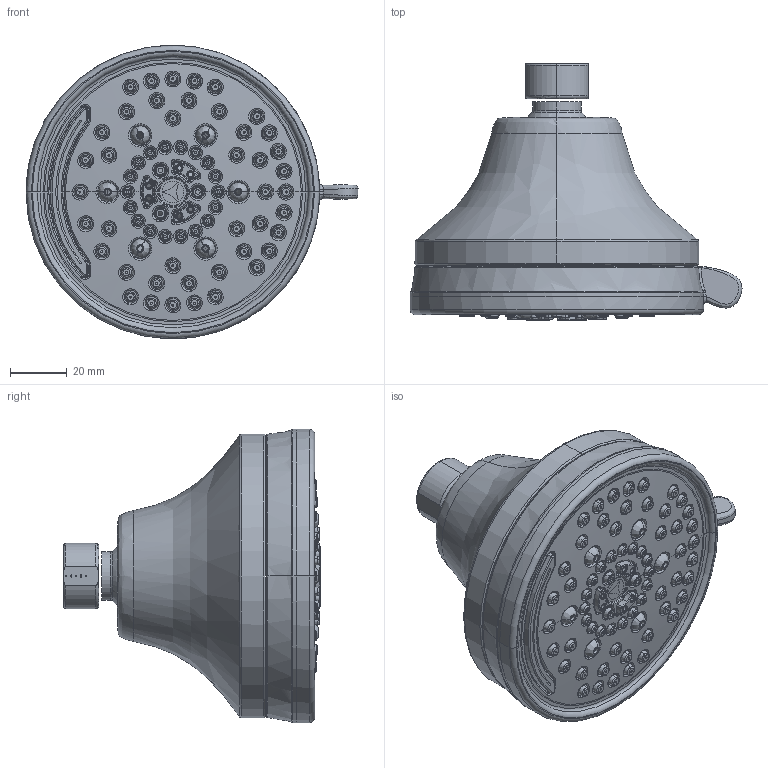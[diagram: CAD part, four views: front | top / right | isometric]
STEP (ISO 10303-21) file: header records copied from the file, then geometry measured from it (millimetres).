
FILE_DESCRIPTION (( 'STEP AP214' ), '1' );
FILE_NAME ('582SH7.STEP', '2025-01-06T04:40:35', ( '' ), ( '' ), 'SwSTEP 2.0', 'SolidWorks 2023', '' );
FILE_SCHEMA (( 'AUTOMOTIVE_DESIGN' ));
Products named in the file (1): 582SH7
Bounding box: 116.96 x 90.5 x 103.45 mm (x, y, z)
Surface area: 52236.2 mm2 (no closed solid volume)
Topology: 0 solids, 104 shells, 1396 faces, 6044 edges, 4742 vertices
Faces by surface type: cone 507, bspline 503, plane 223, torus 108, cylinder 47, sphere 8
Entity records: 149407 total; most frequent: CARTESIAN_POINT 107104, ORIENTED_EDGE 8580, DIRECTION 6257, EDGE_CURVE 6039, VERTEX_POINT 4739, LINE 2441, VECTOR 2441, B_SPLINE_CURVE_WITH_KNOTS 2395
